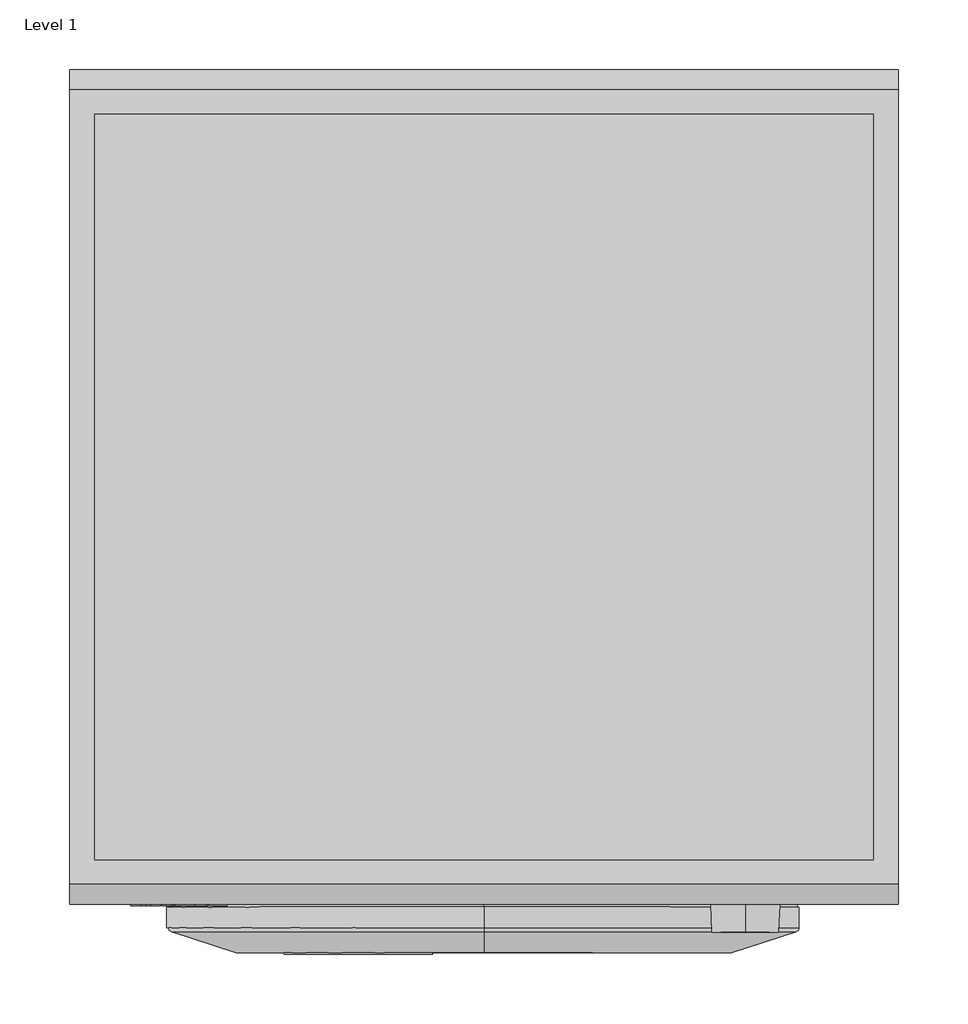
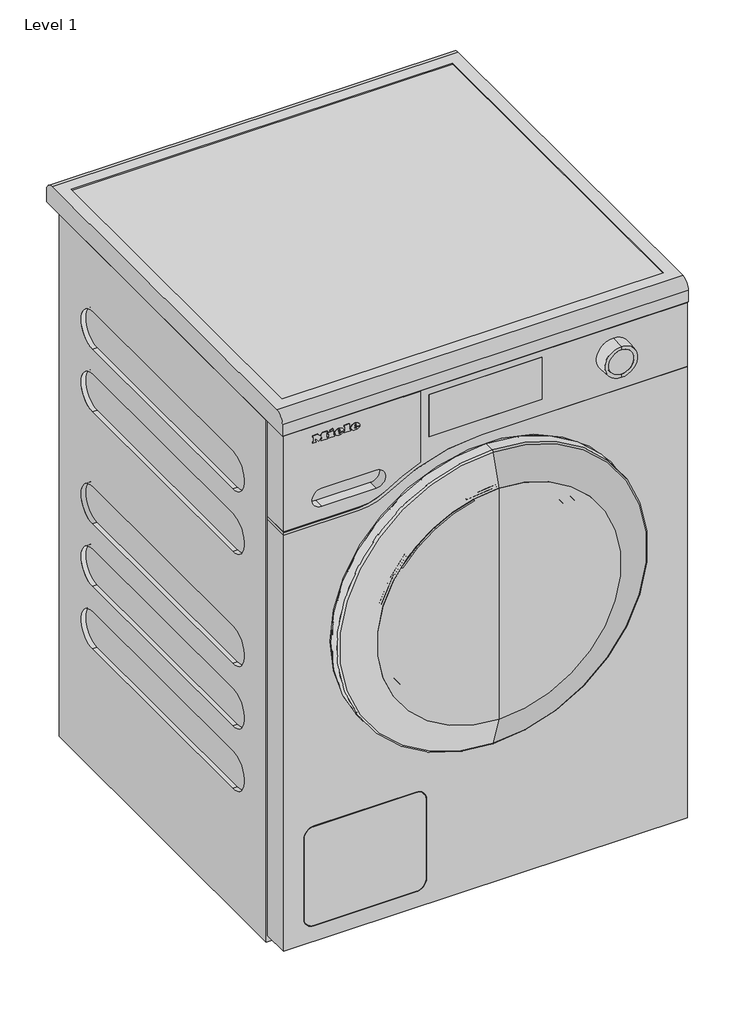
# One storey: 1 proxy.
"""IFC4 building model written with IfcOpenShell, lengths in millimetres."""

from ifc_helpers import new_model, si_unit, origin, place, context, project, spatial, transform, mapped, element, save
from components import specialty_equipment_32876fde, specialty_equipment_8c3d0925

model = new_model("IFC4")

# Units and contexts
model_context = context("Model", 3, world=origin())
ifc_project = project(units=[si_unit("LENGTHUNIT", "METRE", prefix="MILLI")], contexts=[model_context])

# Site, building, storey
site = spatial("IfcSite", under=ifc_project)
building = spatial("IfcBuilding", under=site)
storey = spatial("IfcBuildingStorey", under=building, Name="Level 1", Elevation=0.0)

# Proxy
placement = place(None, origin())
specialty_equipment_shape = specialty_equipment_32876fde(model_context)
specialty_equipment_2_shape = specialty_equipment_8c3d0925(model_context)
element("IfcBuildingElementProxy", 1, Name="11361030_I_WCG360WCS_LW : 11CG3601_I_11361030_WCG360WCS_LW", ObjectType="11361030_I_WCG360WCS_LW : 11CG3601_I_11361030_WCG360WCS_LW", at=placement, inside=storey, context=model_context, shape_type="MappedRepresentation", body=[
    mapped(specialty_equipment_shape, transform((0.0, 0.0, 0.0), x_axis=(1.0, 0.0, 0.0), y_axis=(0.0, 1.0, 0.0), z_axis=(0.0, 0.0, 1.0))),
    mapped(specialty_equipment_2_shape, transform((0.0, 0.0, 0.0), x_axis=(1.0, 0.0, 0.0), y_axis=(0.0, 1.0, 0.0), z_axis=(0.0, 0.0, 1.0))),
])

save(model, "model.ifc")
